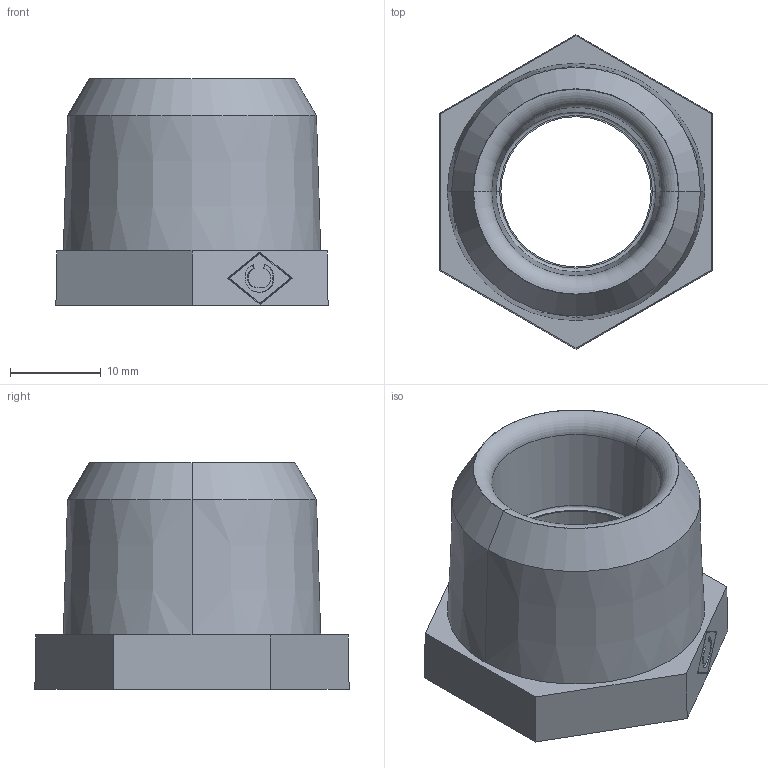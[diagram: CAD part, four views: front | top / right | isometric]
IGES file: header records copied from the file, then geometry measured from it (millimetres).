
Global section: file name: No Iges File Name specified; native system: AutoDesk Inventor R12.0; preprocessor: AutoDesk Inventor Iges Exporter R12.0; date: 20090910.160125; units: millimetre
Bounding box: 30 x 34.64 x 25 mm (x, y, z)
Volume: 9385.4 mm3; surface area: 4388.3 mm2
Topology: 1 solids, 1 shells, 45 faces, 106 edges, 68 vertices
Faces by surface type: plane 23, bspline 10, revolution 6, cone 4, torus 2
